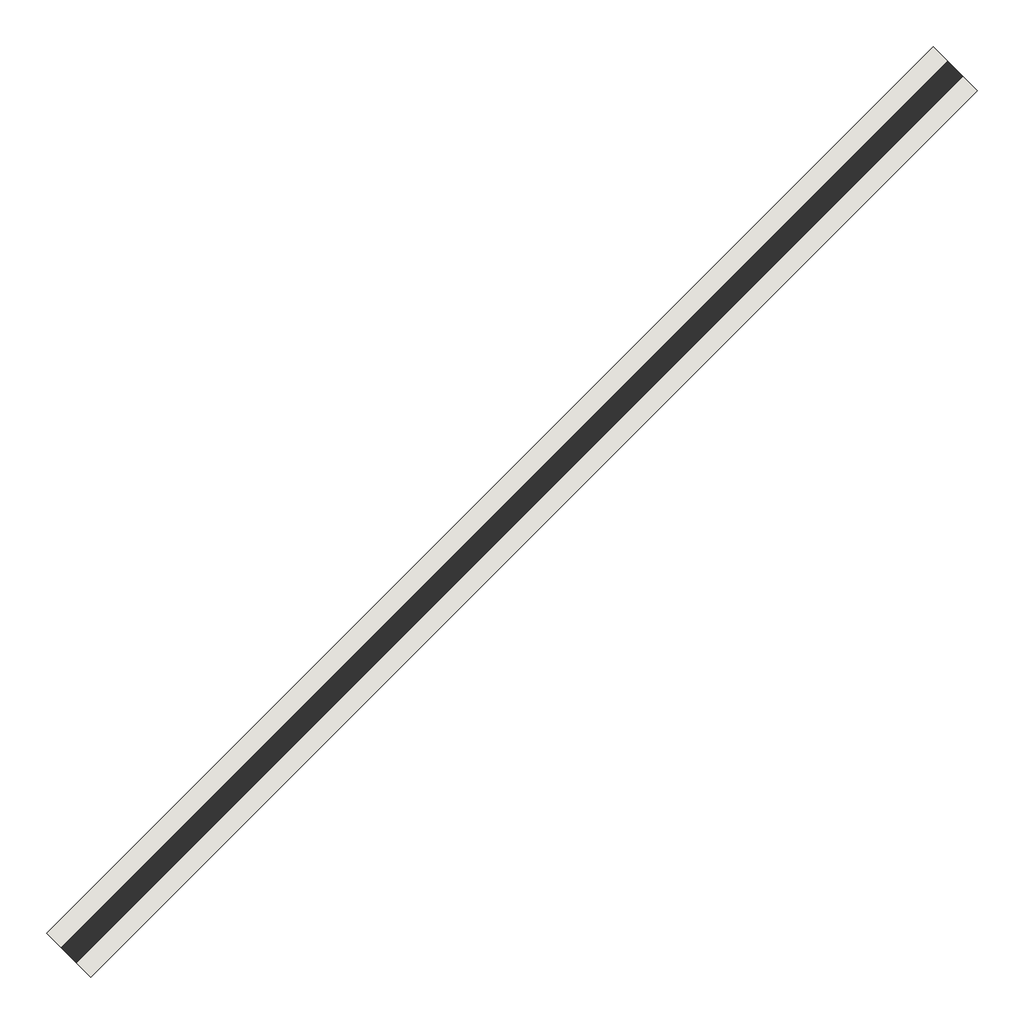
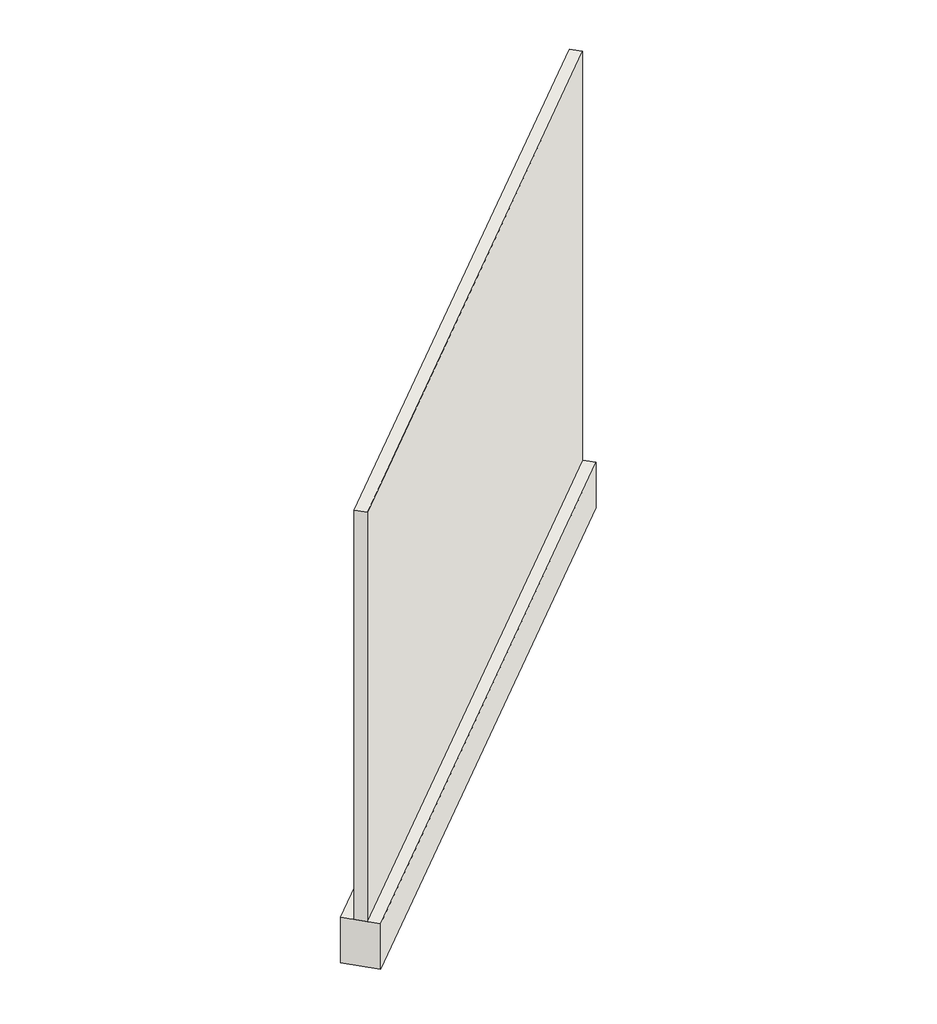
# One storey: 2 walls.
"""IFC4 building model written with IfcOpenShell, lengths in millimetres."""

from ifc_helpers import new_model, si_unit, frame, origin, origin_with_axes, place, context, project, spatial, polyline, outline, extrude, element, save

model = new_model("IFC4")

# Units and contexts
model_context = context("Model", 3, world=origin())
ifc_project = project(units=[si_unit("LENGTHUNIT", "METRE", prefix="MILLI")], contexts=[model_context])

# Site, building, storey
site = spatial("IfcSite", under=ifc_project)
building = spatial("IfcBuilding", under=site)
storey = spatial("IfcBuildingStorey", under=building, Name="CastStone Pioneer Stone", Elevation=0.0)

# Walls
placement = place(None, origin())
element("IfcWall", 1, ObjectType="Cast Stone_Chalk", at=placement, inside=storey, context=model_context, shape_type="SweptSolid", body=[
    extrude(outline(polyline([(-1379.7068952, 7411.09097), (-4612.5990988, 4178.1987664), (-4666.4806355, 4232.0803031), (-1433.588432, 7464.9725067), (-1379.7068952, 7411.09097)])), frame((0.0, 0.0, 304.8), z_axis=(0.0, 0.0, 1.0), x_axis=(1.0, 0.0, 0.0)), (0.0, 0.0, 1.0), 2743.2),
])
element("IfcWall", 2, ObjectType="Generic 9\"", at=placement, inside=storey, context=model_context, shape_type="SweptSolid", body=[
    extrude(outline(polyline([(-1325.8253585, 7357.2094332), (-4558.7175621, 4124.3172297), (-4720.3621723, 4285.9618398), (-1487.4699687, 7518.8540434), (-1325.8253585, 7357.2094332)])), origin_with_axes(), (0.0, 0.0, 1.0), 304.8),
])

save(model, "model.ifc")
